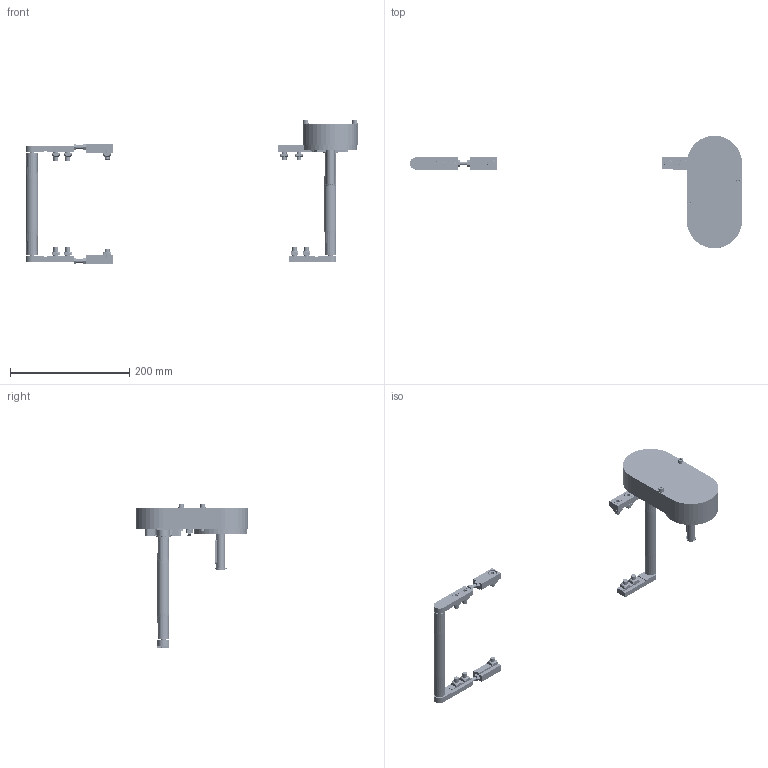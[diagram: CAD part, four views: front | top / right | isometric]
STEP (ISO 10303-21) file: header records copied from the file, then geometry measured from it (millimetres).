
FILE_DESCRIPTION (( 'STEP AP203' ), '1' );
FILE_NAME ('084.020.150.STEP', '2018-03-12T08:35:46', ( '' ), ( '' ), 'SwSTEP 2.0', 'SolidWorks 2016', '' );
FILE_SCHEMA (( 'CONFIG_CONTROL_DESIGN' ));
Length unit declared in the file: millimetre
Products named in the file (35): socket countersunk head screw_iso_ISO 10642 - M5 x 16 --- 16S; 084.800.026; 084.020.150; CHIAVETTE_A 5x5x40 UNI 6604-69; 084.800.001-1; CHIAVETTE_A 4x4x15 UNI 6604-69; ISO 10642 - M5 x 12 --- 12S_ISO 10642 - M5 x 12 --- 12S; circlip for shafts normal_din_Circlip DIN 471 - 14 x 1; 084.020.KT.30.150_MOTORE A DESTRA; ISO 4762 M6 x 35 ---  24S_ISO 4762 M6 x 35 --- 24S; 084.800.002; Washer ISO 7091 - 5_Washer ISO 7091 - 5; 084.800.015; ISO 4762 M5 x 40 --- 22S_ISO 4762 M5 x 40 --- 22S; Washer  ISO 7091 - 6_Washer ISO 7091 - 6; 084.302.000 DADI ALUSIC 13x13-1_084.302.004; 084.802.008; Hexagon Nut ISO - 4032 -  M6 - D - S_Hexagon Nut ISO - 4032 - M6 - D - S; 084.800.003; 084.020.KI.150; 084.800.016; 084.802.016_084.802.016; 084.800.006; 084.800.012; 084.800.014; 084.301.000 VITI ALUSIC_084.301.003; 084.800.009; 084.800.007; 084.800.008; 084.800.010_084.800.010; 084.800.013; 084.800.011; circlip for shafts normal_din_Circlip DIN 471 - 8 x 0.8; 084.800.004; 084.800.005
Assembly tree (80 placements, depth 3):
  084.020.150
    084.020.KI.150
      084.802.008  x2
      084.301.000 VITI ALUSIC_084.301.003  x6
      084.302.000 DADI ALUSIC 13x13-1_084.302.004  x6
      084.800.026
      084.800.012  x4
      084.800.008  x2
      084.800.002  x2
      084.800.007  x2
      circlip for shafts normal_din_Circlip DIN 471 - 8 x 0.8  x2
    084.020.KT.30.150_MOTORE A DESTRA
      084.800.013  x2
      084.800.016
      084.800.026
      084.800.004
      084.800.005
      084.800.010_084.800.010  x2
      084.800.009
      084.800.011
      084.800.002
      084.800.001-1
      084.802.016_084.802.016
      084.800.007
      084.800.012  x2
      084.800.008
      084.800.006
      084.800.014
      084.800.015
      084.800.003
      circlip for shafts normal_din_Circlip DIN 471 - 14 x 1  x2
      CHIAVETTE_A 4x4x15 UNI 6604-69  x2
      CHIAVETTE_A 5x5x40 UNI 6604-69
      circlip for shafts normal_din_Circlip DIN 471 - 8 x 0.8
      Washer ISO 7091 - 5_Washer ISO 7091 - 5  x2
      ISO 4762 M5 x 40 --- 22S_ISO 4762 M5 x 40 --- 22S  x2
      084.301.000 VITI ALUSIC_084.301.003  x4
      084.302.000 DADI ALUSIC 13x13-1_084.302.004  x4
      Washer  ISO 7091 - 6_Washer ISO 7091 - 6  x2
      Hexagon Nut ISO - 4032 -  M6 - D - S_Hexagon Nut ISO - 4032 - M6 - D - S
      ISO 4762 M6 x 35 ---  24S_ISO 4762 M6 x 35 --- 24S
      ISO 10642 - M5 x 12 --- 12S_ISO 10642 - M5 x 12 --- 12S  x4
      socket countersunk head screw_iso_ISO 10642 - M5 x 16 --- 16S  x4
Bounding box: 556.25 x 188.5 x 241.5 mm (x, y, z)
Volume: 447218.9 mm3; surface area: 294587.3 mm2
Topology: 162 solids, 163 shells, 4168 faces, 10416 edges, 6648 vertices
Faces by surface type: cylinder 1681, plane 1275, cone 922, torus 246, bspline 40, sphere 4
Entity records: 73481 total; most frequent: DIRECTION 12858, CARTESIAN_POINT 12294, ORIENTED_EDGE 11164, EDGE_CURVE 5582, AXIS2_PLACEMENT_3D 5015, VERTEX_POINT 3601, VECTOR 2828, LINE 2828
